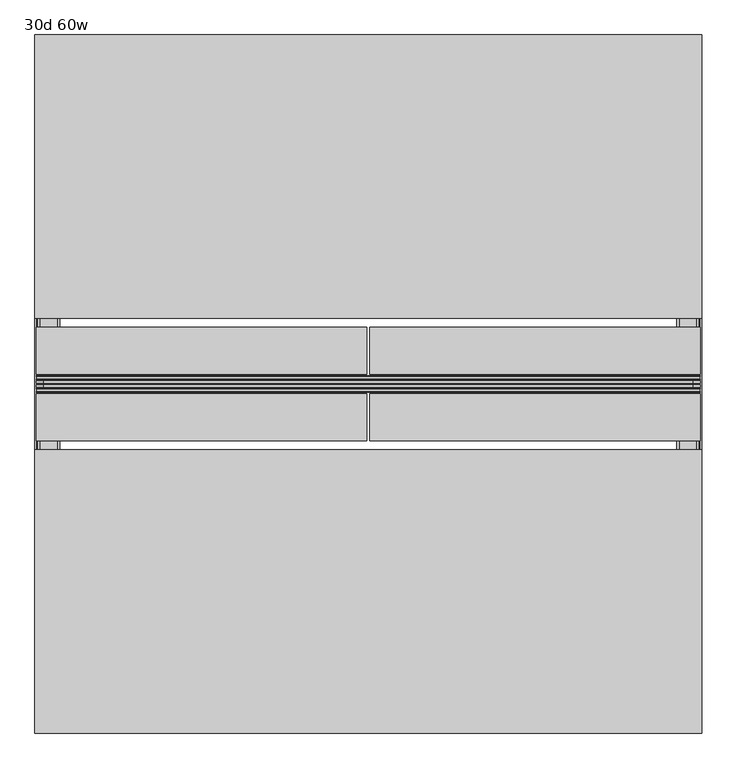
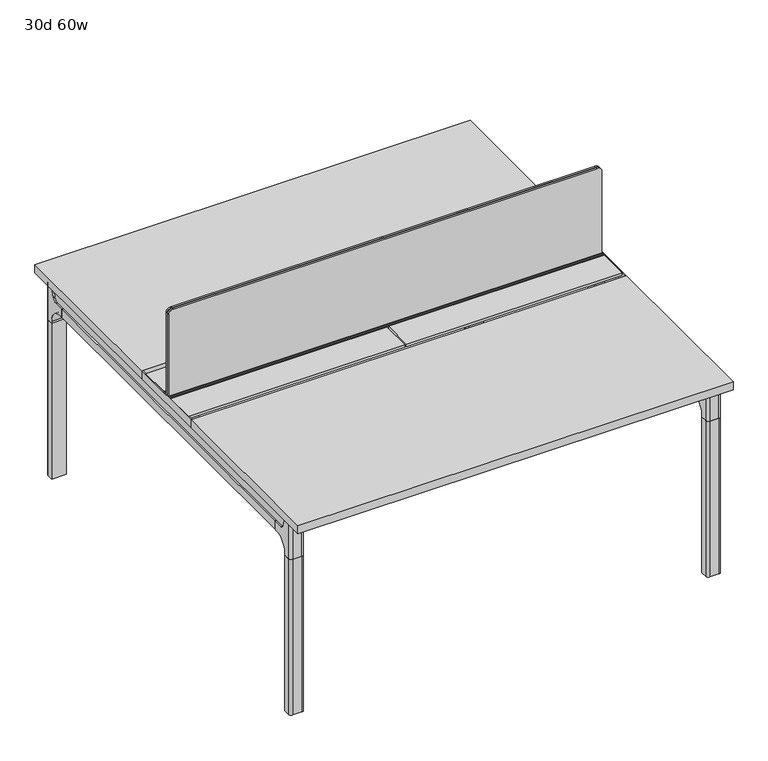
"""IFC4 building model written with IfcOpenShell, lengths in millimetres: furniture geometry, Haworth_Intuity_Benching_DoubleSided : 30d 60w."""

from ifc_helpers import new_model, si_unit, point, frame, frame_2d, origin, place, context, project, spatial, polyline, circle_curve, trimmed, segment, composite_curve, outline, extrude, source, transform, mapped, element, save
from ifc_brep_helpers import plane_surface, cylinder_surface, revolved_surface, advanced_brep


def furniture_30d_60w_475c9fa1(model_context):
    return source(origin(), model_context, "Body", "SolidModel", [
        extrude(outline(composite_curve([segment(polyline([(1054.89375, 955.675), (1054.89375, -523.875)]), True, "CONTINUOUS"), segment(trimmed(circle_curve(frame_2d((1039.01875, -523.875)), 15.875), [point((1054.89375, -523.875))], [point((1039.01875, -539.75))], False, "CARTESIAN"), True, "CONTINUOUS"), segment(polyline([(1039.01875, -539.75), (720.725, -539.75), (720.725, 971.55), (1039.01875, 971.55)]), True, "CONTINUOUS"), segment(trimmed(circle_curve(frame_2d((1039.01875, 955.675)), 15.875), [point((1039.01875, 971.55))], [point((1054.89375, 955.675))], False, "CARTESIAN"), True, "CONTINUOUS")], self_intersect=False)), frame((0.0, -201.3409766, 0.0), z_axis=(0.0, 1.0, 0.0), x_axis=(0.0, 0.0, 1.0)), (0.0, 0.0, 1.0), 3.175),
        extrude(outline(composite_curve([segment(polyline([(1058.06875, 958.85), (1058.06875, -527.05)]), True, "CONTINUOUS"), segment(trimmed(circle_curve(frame_2d((1042.19375, -527.05)), 15.875), [point((1058.06875, -527.05))], [point((1042.19375, -542.925))], False, "CARTESIAN"), True, "CONTINUOUS"), segment(polyline([(1042.19375, -542.925), (717.55, -542.925), (717.55, 974.725), (1042.19375, 974.725)]), True, "CONTINUOUS"), segment(trimmed(circle_curve(frame_2d((1042.19375, 958.85)), 15.875), [point((1042.19375, 974.725))], [point((1058.06875, 958.85))], False, "CARTESIAN"), True, "CONTINUOUS")], self_intersect=False)), frame((0.0, -198.1659766, 0.0), z_axis=(0.0, 1.0, 0.0), x_axis=(0.0, 0.0, 1.0)), (0.0, 0.0, 1.0), 5.55625),
        extrude(outline(composite_curve([segment(polyline([(1058.06875, 958.85), (1058.06875, -527.05)]), True, "CONTINUOUS"), segment(trimmed(circle_curve(frame_2d((1042.19375, -527.05)), 15.875), [point((1058.06875, -527.05))], [point((1042.19375, -542.925))], False, "CARTESIAN"), True, "CONTINUOUS"), segment(polyline([(1042.19375, -542.925), (717.55, -542.925), (717.55, 974.725), (1042.19375, 974.725)]), True, "CONTINUOUS"), segment(trimmed(circle_curve(frame_2d((1042.19375, 958.85)), 15.875), [point((1042.19375, 974.725))], [point((1058.06875, 958.85))], False, "CARTESIAN"), True, "CONTINUOUS")], self_intersect=False)), frame((0.0, -206.8972266, 0.0), z_axis=(0.0, 1.0, 0.0), x_axis=(0.0, 0.0, 1.0)), (0.0, 0.0, 1.0), 5.55625),
        extrude(outline(polyline([(-218.8034766, 715.9625), (-218.8034766, 741.3625), (-217.2159766, 741.3625), (-217.2159766, 720.725), (-210.8659766, 720.725), (-210.8659766, 741.3625), (-209.2784766, 741.3625), (-209.2784766, 717.55), (-190.2284766, 717.55), (-190.2284766, 741.3625), (-188.6409766, 741.3625), (-188.6409766, 720.725), (-182.2909766, 720.725), (-182.2909766, 741.3625), (-180.7034766, 741.3625), (-180.7034766, 715.9625), (-218.8034766, 715.9625)])), frame((-542.925, 0.0, 0.0), z_axis=(1.0, 0.0, 0.0), x_axis=(0.0, 1.0, 0.0)), (0.0, 0.0, 1.0), 1517.65),
        extrude(outline(composite_curve([segment(polyline([(505.8902734, 711.2), (496.8321726, 677.3947076)]), True, "CONTINUOUS"), segment(trimmed(circle_curve(frame_2d((481.4981001, 681.5034599)), 15.875), [point((496.8321726, 677.3947076))], [point((481.4981001, 665.6284599))], False, "CARTESIAN"), True, "CONTINUOUS"), segment(polyline([(481.4981001, 665.6284599), (-881.0050533, 665.6284599)]), True, "CONTINUOUS"), segment(trimmed(circle_curve(frame_2d((-881.0050533, 681.5034599)), 15.875), [point((-881.0050533, 665.6284599))], [point((-896.3391258, 677.3947076))], False, "CARTESIAN"), True, "CONTINUOUS"), segment(polyline([(-896.3391258, 677.3947076), (-905.3972266, 711.2), (505.8902734, 711.2)]), True, "CONTINUOUS")], self_intersect=False)), frame((927.1, 0.0, 0.0), z_axis=(1.0, 0.0, 0.0), x_axis=(0.0, 1.0, 0.0)), (0.0, 0.0, 1.0), 38.1),
        extrude(outline(polyline([(971.55, 445.5652734), (971.55, -845.0722266), (920.75, -845.0722266), (920.75, 445.5652734), (971.55, 445.5652734)])), frame((0.0, 0.0, 635.6476591), z_axis=(0.0, 0.0, 1.0), x_axis=(1.0, 0.0, 0.0)), (0.0, 0.0, 1.0), 29.9808008),
        extrude(outline(composite_curve([segment(polyline([(505.8902734, 711.2), (496.8321726, 677.3947076)]), True, "CONTINUOUS"), segment(trimmed(circle_curve(frame_2d((481.4981001, 681.5034599)), 15.875), [point((496.8321726, 677.3947076))], [point((481.4981001, 665.6284599))], False, "CARTESIAN"), True, "CONTINUOUS"), segment(polyline([(481.4981001, 665.6284599), (-881.0050533, 665.6284599)]), True, "CONTINUOUS"), segment(trimmed(circle_curve(frame_2d((-881.0050533, 681.5034599)), 15.875), [point((-881.0050533, 665.6284599))], [point((-896.3391258, 677.3947076))], False, "CARTESIAN"), True, "CONTINUOUS"), segment(polyline([(-896.3391258, 677.3947076), (-905.3972266, 711.2), (505.8902734, 711.2)]), True, "CONTINUOUS")], self_intersect=False)), frame((-533.4, 0.0, 0.0), z_axis=(1.0, 0.0, 0.0), x_axis=(0.0, 1.0, 0.0)), (0.0, 0.0, 1.0), 38.1),
        extrude(outline(polyline([(-488.95, 445.5652734), (-488.95, -845.0722266), (-539.75, -845.0722266), (-539.75, 445.5652734), (-488.95, 445.5652734)])), frame((0.0, 0.0, 635.6476591), z_axis=(0.0, 0.0, 1.0), x_axis=(1.0, 0.0, 0.0)), (0.0, 0.0, 1.0), 29.9808008),
        advanced_brep(
        [(971.55, 505.9366022, 711.2), (971.55, 496.8785014, 677.3947076), (971.55, 481.5444289, 665.6284599), (971.55, 445.5652734, 665.6284599), (971.55, 445.5652734, 635.6476591), (971.55, 456.6777734, 635.6476591), (971.55, 507.4777734, 584.8476591), (971.55, 507.4777734, 576.659375), (971.55, 529.7027734, 576.659375), (971.55, 529.7027734, 711.2), (920.75, 507.4777734, 576.659375), (920.75, 507.4777734, 584.8476591), (920.75, 456.6777734, 635.6476591), (920.75, 445.5652734, 635.6476591), (920.75, 445.5652734, 665.6284599), (920.75, 481.5444289, 665.6284599), (920.75, 496.8785014, 677.3947076), (920.75, 505.9366022, 711.2), (920.75, 529.7027734, 711.2), (920.75, 529.7027734, 576.659375), (962.025, 539.2277734, 711.2), (930.275, 539.2277734, 711.2), (930.275, 539.2277734, 576.659375), (962.025, 539.2277734, 576.659375)],
        [
            (0, 1),
            (1, 2, circle_curve(frame((971.55, 481.5444289, 681.5034599), z_axis=(-1.0, 0.0, 0.0), x_axis=(0.0, 1.0, 0.0)), 15.875)),
            (2, 3),
            (3, 4),
            (4, 5),
            (5, 6, circle_curve(frame((971.55, 456.6777734, 584.8476591), z_axis=(-1.0, 0.0, 0.0), x_axis=(0.0, 1.0, 0.0)), 50.8)),
            (6, 7),
            (7, 8),
            (8, 9),
            (9, 0),
            (10, 11),
            (11, 12, circle_curve(frame((920.75, 456.6777734, 584.8476591), z_axis=(1.0, 0.0, 0.0), x_axis=(0.0, 1.0, 0.0)), 50.8)),
            (12, 13),
            (13, 14),
            (14, 15),
            (15, 16, circle_curve(frame((920.75, 481.5444289, 681.5034599), z_axis=(1.0, 0.0, 0.0), x_axis=(0.0, 1.0, 0.0)), 15.875)),
            (16, 17),
            (17, 18),
            (18, 19),
            (19, 10),
            (17, 0),
            (9, 20, circle_curve(frame((962.025, 529.7027734, 711.2), z_axis=(0.0, 0.0, 1.0), x_axis=(-1.0, 0.0, 0.0)), 9.525)),
            (20, 21),
            (21, 18, circle_curve(frame((930.275, 529.7027734, 711.2), z_axis=(0.0, 0.0, 1.0), x_axis=(-1.0, 0.0, 0.0)), 9.525)),
            (16, 1),
            (15, 2),
            (14, 3),
            (13, 4),
            (12, 5),
            (7, 10),
            (19, 22, circle_curve(frame((930.275, 529.7027734, 576.659375), z_axis=(0.0, 0.0, -1.0), x_axis=(-1.0, 0.0, 0.0)), 9.525)),
            (22, 23),
            (23, 8, circle_curve(frame((962.025, 529.7027734, 576.659375), z_axis=(0.0, 0.0, -1.0), x_axis=(-1.0, 0.0, 0.0)), 9.525)),
            (11, 6),
            (23, 20),
            (21, 22),
        ],
        [
            plane_surface(frame((971.55, 546.154303, 711.2), z_axis=(1.0, 0.0, 0.0), x_axis=(0.0, -1.0, 0.0))),
            plane_surface(frame((920.75, 546.154303, 711.2), z_axis=(-1.0, 0.0, 0.0), x_axis=(0.0, 1.0, 0.0))),
            plane_surface(frame((971.55, 546.154303, 711.2), z_axis=(0.0, 0.0, 1.0), x_axis=(-1.0, 0.0, 0.0))),
            plane_surface(frame((971.55, 505.9366022, 711.2), z_axis=(0.0, -0.9659258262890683, 0.2588190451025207), x_axis=(-1.0, 0.0, 0.0))),
            revolved_surface(polyline([(920.75, 497.4194289, 681.5034599), (971.55, 497.4194289, 681.5034599)]), (920.75, 481.5444289, 681.5034599), (-1.0, 0.0, 0.0)),
            plane_surface(frame((971.55, 481.5444289, 665.6284599), z_axis=(0.0, 0.0, 1.0), x_axis=(-1.0, 0.0, 0.0))),
            plane_surface(frame((971.55, 445.5652734, 665.6284599), z_axis=(0.0, -1.0, 0.0), x_axis=(-1.0, 0.0, 0.0))),
            plane_surface(frame((971.55, 445.5652734, 635.6476591), z_axis=(0.0, 0.0, -1.0), x_axis=(-1.0, 0.0, 0.0))),
            plane_surface(frame((971.55, 507.4777734, 576.659375), z_axis=(0.0, 0.0, -1.0), x_axis=(-1.0, 0.0, 0.0))),
            revolved_surface(polyline([(920.75, 507.4777734, 584.8476591), (971.55, 507.4777734, 584.8476591)]), (920.75, 456.6777734, 584.8476591), (-1.0, 0.0, 0.0)),
            plane_surface(frame((971.55, 507.4777734, 584.8476591), z_axis=(0.0, -1.0, 0.0), x_axis=(-1.0, 0.0, 0.0))),
            cylinder_surface(frame((962.025, 529.7027734, 524.9807374), z_axis=(0.0, 0.0, -1.0), x_axis=(-1.0, 0.0, 0.0)), 9.525),
            cylinder_surface(frame((930.275, 529.7027734, 524.9807374), z_axis=(0.0, 0.0, -1.0), x_axis=(-1.0, 0.0, 0.0)), 9.525),
            plane_surface(frame((930.275, 539.2277734, 711.2), z_axis=(0.0, 1.0, 0.0), x_axis=(0.0, 0.0, -1.0))),
        ],
        [
            (0, [[1, 2, 3, 4, 5, 6, 7, 8, 9, 10]]),
            (1, [[11, 12, 13, 14, 15, 16, 17, 18, 19, 20]]),
            (2, [[21, -10, 22, 23, 24, -18]]),
            (3, [[-1, -21, -17, 25]]),
            (4, [[-2, -25, -16, 26]]),
            (5, [[-3, -26, -15, 27]]),
            (6, [[-4, -27, -14, 28]]),
            (7, [[-5, -28, -13, 29]]),
            (8, [[30, -20, 31, 32, 33, -8]]),
            (9, [[-6, -29, -12, 34]]),
            (10, [[-7, -34, -11, -30]]),
            (11, [[35, -22, -9, -33]]),
            (12, [[36, -31, -19, -24]]),
            (13, [[-35, -32, -36, -23]]),
        ],
    ),
        advanced_brep(
        [(920.75, 507.4777734, 576.659375), (971.55, 507.4777734, 576.659375), (971.55, 529.7027734, 576.659375), (962.025, 539.2277734, 576.659375), (930.275, 539.2277734, 576.659375), (920.75, 529.7027734, 576.659375), (920.75, 507.4777734, 0.0), (920.75, 529.7027734, 0.0), (930.275, 539.2277734, 0.0), (962.025, 539.2277734, 0.0), (971.55, 529.7027734, 0.0), (971.55, 507.4777734, 0.0), (971.55, 529.7027734, 524.9807374), (962.025, 539.2277734, 524.9807374), (930.275, 539.2277734, 524.9807374), (920.75, 529.7027734, 524.9807374)],
        [
            (0, 1),
            (1, 2),
            (2, 3, circle_curve(frame((962.025, 529.7027734, 576.659375), z_axis=(0.0, 0.0, 1.0), x_axis=(-1.0, 0.0, 0.0)), 9.525)),
            (3, 4),
            (4, 5, circle_curve(frame((930.275, 529.7027734, 576.659375), z_axis=(0.0, 0.0, 1.0), x_axis=(-1.0, 0.0, 0.0)), 9.525)),
            (5, 0),
            (6, 7),
            (7, 8, circle_curve(frame((930.275, 529.7027734, 0.0), z_axis=(0.0, 0.0, -1.0), x_axis=(-1.0, 0.0, 0.0)), 9.525)),
            (8, 9),
            (9, 10, circle_curve(frame((962.025, 529.7027734, 0.0), z_axis=(0.0, 0.0, -1.0), x_axis=(-1.0, 0.0, 0.0)), 9.525)),
            (10, 11),
            (11, 6),
            (0, 6),
            (11, 1),
            (10, 12),
            (12, 2),
            (9, 13),
            (13, 3),
            (8, 14),
            (14, 4),
            (7, 15),
            (15, 5),
        ],
        [
            plane_surface(frame((978.7462903, 507.4777734, 576.659375), z_axis=(0.0, 0.0, 1.0), x_axis=(1.0, 0.0, 0.0))),
            plane_surface(frame((978.7462903, 507.4777734, 0.0), z_axis=(0.0, 0.0, -1.0), x_axis=(-1.0, 0.0, 0.0))),
            plane_surface(frame((920.75, 507.4777734, 576.659375), z_axis=(0.0, -1.0, 0.0), x_axis=(0.0, 0.0, -1.0))),
            plane_surface(frame((971.55, 507.4777734, 576.659375), z_axis=(1.0, 0.0, 0.0), x_axis=(0.0, 0.0, -1.0))),
            cylinder_surface(frame((962.025, 529.7027734, 0.0), z_axis=(0.0, 0.0, 1.0), x_axis=(-1.0, 0.0, 0.0)), 9.525),
            plane_surface(frame((962.025, 539.2277734, 576.659375), z_axis=(0.0, 1.0, 0.0), x_axis=(0.0, 0.0, -1.0))),
            cylinder_surface(frame((930.275, 529.7027734, 0.0), z_axis=(0.0, 0.0, 1.0), x_axis=(-1.0, 0.0, 0.0)), 9.525),
            plane_surface(frame((920.75, 529.7027734, 576.659375), z_axis=(-1.0, 0.0, 0.0), x_axis=(0.0, 0.0, -1.0))),
        ],
        [
            (0, [[1, 2, 3, 4, 5, 6]]),
            (1, [[7, 8, 9, 10, 11, 12]]),
            (2, [[-1, 13, -12, 14]]),
            (3, [[-2, -14, -11, 15, 16]]),
            (4, [[-3, -16, -15, -10, 17, 18]]),
            (5, [[-4, -18, -17, -9, 19, 20]]),
            (6, [[-5, -20, -19, -8, 21, 22]]),
            (7, [[-6, -22, -21, -7, -13]]),
        ],
    ),
        advanced_brep(
        [(920.75, -905.4435553, 711.2), (920.75, -896.3854545, 677.3947076), (920.75, -881.051382, 665.6284599), (920.75, -845.0722266, 665.6284599), (920.75, -845.0722266, 635.6476591), (920.75, -856.1847266, 635.6476591), (920.75, -906.9847266, 584.8476591), (920.75, -906.9847266, 576.659375), (920.75, -929.2097266, 576.659375), (920.75, -929.2097266, 711.2), (971.55, -906.9847266, 576.659375), (971.55, -906.9847266, 584.8476591), (971.55, -856.1847266, 635.6476591), (971.55, -845.0722266, 635.6476591), (971.55, -845.0722266, 665.6284599), (971.55, -881.051382, 665.6284599), (971.55, -896.3854545, 677.3947076), (971.55, -905.4435553, 711.2), (971.55, -929.2097266, 711.2), (971.55, -929.2097266, 576.659375), (930.275, -938.7347266, 711.2), (962.025, -938.7347266, 711.2), (962.025, -938.7347266, 576.659375), (930.275, -938.7347266, 576.659375)],
        [
            (0, 1),
            (1, 2, circle_curve(frame((920.75, -881.051382, 681.5034599), z_axis=(1.0, 0.0, 0.0), x_axis=(0.0, -1.0, 0.0)), 15.875)),
            (2, 3),
            (3, 4),
            (4, 5),
            (5, 6, circle_curve(frame((920.75, -856.1847266, 584.8476591), z_axis=(1.0, 0.0, 0.0), x_axis=(0.0, -1.0, 0.0)), 50.8)),
            (6, 7),
            (7, 8),
            (8, 9),
            (9, 0),
            (10, 11),
            (11, 12, circle_curve(frame((971.55, -856.1847266, 584.8476591), z_axis=(-1.0, 0.0, 0.0), x_axis=(0.0, -1.0, 0.0)), 50.8)),
            (12, 13),
            (13, 14),
            (14, 15),
            (15, 16, circle_curve(frame((971.55, -881.051382, 681.5034599), z_axis=(-1.0, 0.0, 0.0), x_axis=(0.0, -1.0, 0.0)), 15.875)),
            (16, 17),
            (17, 18),
            (18, 19),
            (19, 10),
            (17, 0),
            (9, 20, circle_curve(frame((930.275, -929.2097266, 711.2), z_axis=(0.0, 0.0, 1.0), x_axis=(1.0, 0.0, 0.0)), 9.525)),
            (20, 21),
            (21, 18, circle_curve(frame((962.025, -929.2097266, 711.2), z_axis=(0.0, 0.0, 1.0), x_axis=(1.0, 0.0, 0.0)), 9.525)),
            (16, 1),
            (15, 2),
            (14, 3),
            (13, 4),
            (12, 5),
            (7, 10),
            (19, 22, circle_curve(frame((962.025, -929.2097266, 576.659375), z_axis=(0.0, 0.0, -1.0), x_axis=(1.0, 0.0, 0.0)), 9.525)),
            (22, 23),
            (23, 8, circle_curve(frame((930.275, -929.2097266, 576.659375), z_axis=(0.0, 0.0, -1.0), x_axis=(1.0, 0.0, 0.0)), 9.525)),
            (11, 6),
            (23, 20),
            (21, 22),
        ],
        [
            plane_surface(frame((920.75, -945.6612561, 711.2), z_axis=(-1.0, 0.0, 0.0), x_axis=(0.0, 1.0, 0.0))),
            plane_surface(frame((971.55, -945.6612561, 711.2), z_axis=(1.0, 0.0, 0.0), x_axis=(0.0, -1.0, 0.0))),
            plane_surface(frame((920.75, -945.6612561, 711.2), z_axis=(0.0, 0.0, 1.0), x_axis=(1.0, 0.0, 0.0))),
            plane_surface(frame((920.75, -905.4435553, 711.2), z_axis=(0.0, 0.9659258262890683, 0.2588190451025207), x_axis=(1.0, 0.0, 0.0))),
            revolved_surface(polyline([(971.55, -896.926382, 681.5034599), (920.75, -896.926382, 681.5034599)]), (971.55, -881.051382, 681.5034599), (1.0, 0.0, 0.0)),
            plane_surface(frame((920.75, -881.051382, 665.6284599), z_axis=(0.0, 0.0, 1.0), x_axis=(1.0, 0.0, 0.0))),
            plane_surface(frame((920.75, -845.0722266, 665.6284599), z_axis=(0.0, 1.0, 0.0), x_axis=(1.0, 0.0, 0.0))),
            plane_surface(frame((920.75, -845.0722266, 635.6476591), z_axis=(0.0, 0.0, -1.0), x_axis=(1.0, 0.0, 0.0))),
            plane_surface(frame((920.75, -906.9847266, 576.659375), z_axis=(0.0, 0.0, -1.0), x_axis=(1.0, 0.0, 0.0))),
            revolved_surface(polyline([(971.55, -906.9847265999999, 584.8476591), (920.75, -906.9847265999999, 584.8476591)]), (971.55, -856.1847266, 584.8476591), (1.0, 0.0, 0.0)),
            plane_surface(frame((920.75, -906.9847266, 584.8476591), z_axis=(0.0, 1.0, 0.0), x_axis=(1.0, 0.0, 0.0))),
            cylinder_surface(frame((930.275, -929.2097266, 524.9807374), z_axis=(0.0, 0.0, -1.0), x_axis=(1.0, 0.0, 0.0)), 9.525),
            cylinder_surface(frame((962.025, -929.2097266, 524.9807374), z_axis=(0.0, 0.0, -1.0), x_axis=(1.0, 0.0, 0.0)), 9.525),
            plane_surface(frame((962.025, -938.7347266, 711.2), z_axis=(0.0, -1.0, 0.0), x_axis=(0.0, 0.0, -1.0))),
        ],
        [
            (0, [[1, 2, 3, 4, 5, 6, 7, 8, 9, 10]]),
            (1, [[11, 12, 13, 14, 15, 16, 17, 18, 19, 20]]),
            (2, [[21, -10, 22, 23, 24, -18]]),
            (3, [[-1, -21, -17, 25]]),
            (4, [[-2, -25, -16, 26]]),
            (5, [[-3, -26, -15, 27]]),
            (6, [[-4, -27, -14, 28]]),
            (7, [[-5, -28, -13, 29]]),
            (8, [[30, -20, 31, 32, 33, -8]]),
            (9, [[-6, -29, -12, 34]]),
            (10, [[-7, -34, -11, -30]]),
            (11, [[35, -22, -9, -33]]),
            (12, [[36, -31, -19, -24]]),
            (13, [[-35, -32, -36, -23]]),
        ],
    ),
        advanced_brep(
        [(971.55, -906.9847266, 576.659375), (920.75, -906.9847266, 576.659375), (920.75, -929.2097266, 576.659375), (930.275, -938.7347266, 576.659375), (962.025, -938.7347266, 576.659375), (971.55, -929.2097266, 576.659375), (971.55, -906.9847266, 0.0), (971.55, -929.2097266, 0.0), (962.025, -938.7347266, 0.0), (930.275, -938.7347266, 0.0), (920.75, -929.2097266, 0.0), (920.75, -906.9847266, 0.0), (920.75, -929.2097266, 524.9807374), (930.275, -938.7347266, 524.9807374), (962.025, -938.7347266, 524.9807374), (971.55, -929.2097266, 524.9807374)],
        [
            (0, 1),
            (1, 2),
            (2, 3, circle_curve(frame((930.275, -929.2097266, 576.659375), z_axis=(0.0, 0.0, 1.0), x_axis=(1.0, 0.0, 0.0)), 9.525)),
            (3, 4),
            (4, 5, circle_curve(frame((962.025, -929.2097266, 576.659375), z_axis=(0.0, 0.0, 1.0), x_axis=(1.0, 0.0, 0.0)), 9.525)),
            (5, 0),
            (6, 7),
            (7, 8, circle_curve(frame((962.025, -929.2097266, 0.0), z_axis=(0.0, 0.0, -1.0), x_axis=(1.0, 0.0, 0.0)), 9.525)),
            (8, 9),
            (9, 10, circle_curve(frame((930.275, -929.2097266, 0.0), z_axis=(0.0, 0.0, -1.0), x_axis=(1.0, 0.0, 0.0)), 9.525)),
            (10, 11),
            (11, 6),
            (0, 6),
            (11, 1),
            (10, 12),
            (12, 2),
            (9, 13),
            (13, 3),
            (8, 14),
            (14, 4),
            (7, 15),
            (15, 5),
        ],
        [
            plane_surface(frame((913.5537097, -906.9847266, 576.659375), z_axis=(0.0, 0.0, 1.0), x_axis=(-1.0, 0.0, 0.0))),
            plane_surface(frame((913.5537097, -906.9847266, 0.0), z_axis=(0.0, 0.0, -1.0), x_axis=(1.0, 0.0, 0.0))),
            plane_surface(frame((971.55, -906.9847266, 576.659375), z_axis=(0.0, 1.0, 0.0), x_axis=(0.0, 0.0, -1.0))),
            plane_surface(frame((920.75, -906.9847266, 576.659375), z_axis=(-1.0, 0.0, 0.0), x_axis=(0.0, 0.0, -1.0))),
            cylinder_surface(frame((930.275, -929.2097266, 0.0), z_axis=(0.0, 0.0, 1.0), x_axis=(1.0, 0.0, 0.0)), 9.525),
            plane_surface(frame((930.275, -938.7347266, 576.659375), z_axis=(0.0, -1.0, 0.0), x_axis=(0.0, 0.0, -1.0))),
            cylinder_surface(frame((962.025, -929.2097266, 0.0), z_axis=(0.0, 0.0, 1.0), x_axis=(1.0, 0.0, 0.0)), 9.525),
            plane_surface(frame((971.55, -929.2097266, 576.659375), z_axis=(1.0, 0.0, 0.0), x_axis=(0.0, 0.0, -1.0))),
        ],
        [
            (0, [[1, 2, 3, 4, 5, 6]]),
            (1, [[7, 8, 9, 10, 11, 12]]),
            (2, [[-1, 13, -12, 14]]),
            (3, [[-2, -14, -11, 15, 16]]),
            (4, [[-3, -16, -15, -10, 17, 18]]),
            (5, [[-4, -18, -17, -9, 19, 20]]),
            (6, [[-5, -20, -19, -8, 21, 22]]),
            (7, [[-6, -22, -21, -7, -13]]),
        ],
    ),
        advanced_brep(
        [(-488.95, 505.9366022, 711.2), (-488.95, 496.8785014, 677.3947076), (-488.95, 481.5444289, 665.6284599), (-488.95, 445.5652734, 665.6284599), (-488.95, 445.5652734, 635.6476591), (-488.95, 456.6777734, 635.6476591), (-488.95, 507.4777734, 584.8476591), (-488.95, 507.4777734, 576.659375), (-488.95, 529.7027734, 576.659375), (-488.95, 529.7027734, 711.2), (-539.75, 507.4777734, 576.659375), (-539.75, 507.4777734, 584.8476591), (-539.75, 456.6777734, 635.6476591), (-539.75, 445.5652734, 635.6476591), (-539.75, 445.5652734, 665.6284599), (-539.75, 481.5444289, 665.6284599), (-539.75, 496.8785014, 677.3947076), (-539.75, 505.9366022, 711.2), (-539.75, 529.7027734, 711.2), (-539.75, 529.7027734, 576.659375), (-498.475, 539.2277734, 711.2), (-530.225, 539.2277734, 711.2), (-530.225, 539.2277734, 576.659375), (-498.475, 539.2277734, 576.659375)],
        [
            (0, 1),
            (1, 2, circle_curve(frame((-488.95, 481.5444289, 681.5034599), z_axis=(-1.0, 0.0, 0.0), x_axis=(0.0, 1.0, 0.0)), 15.875)),
            (2, 3),
            (3, 4),
            (4, 5),
            (5, 6, circle_curve(frame((-488.95, 456.6777734, 584.8476591), z_axis=(-1.0, 0.0, 0.0), x_axis=(0.0, 1.0, 0.0)), 50.8)),
            (6, 7),
            (7, 8),
            (8, 9),
            (9, 0),
            (10, 11),
            (11, 12, circle_curve(frame((-539.75, 456.6777734, 584.8476591), z_axis=(1.0, 0.0, 0.0), x_axis=(0.0, 1.0, 0.0)), 50.8)),
            (12, 13),
            (13, 14),
            (14, 15),
            (15, 16, circle_curve(frame((-539.75, 481.5444289, 681.5034599), z_axis=(1.0, 0.0, 0.0), x_axis=(0.0, 1.0, 0.0)), 15.875)),
            (16, 17),
            (17, 18),
            (18, 19),
            (19, 10),
            (17, 0),
            (9, 20, circle_curve(frame((-498.475, 529.7027734, 711.2), z_axis=(0.0, 0.0, 1.0), x_axis=(-1.0, 0.0, 0.0)), 9.525)),
            (20, 21),
            (21, 18, circle_curve(frame((-530.225, 529.7027734, 711.2), z_axis=(0.0, 0.0, 1.0), x_axis=(-1.0, 0.0, 0.0)), 9.525)),
            (16, 1),
            (15, 2),
            (14, 3),
            (13, 4),
            (12, 5),
            (7, 10),
            (19, 22, circle_curve(frame((-530.225, 529.7027734, 576.659375), z_axis=(0.0, 0.0, -1.0), x_axis=(-1.0, 0.0, 0.0)), 9.525)),
            (22, 23),
            (23, 8, circle_curve(frame((-498.475, 529.7027734, 576.659375), z_axis=(0.0, 0.0, -1.0), x_axis=(-1.0, 0.0, 0.0)), 9.525)),
            (11, 6),
            (23, 20),
            (21, 22),
        ],
        [
            plane_surface(frame((-488.95, 546.154303, 711.2), z_axis=(1.0, 0.0, 0.0), x_axis=(0.0, -1.0, 0.0))),
            plane_surface(frame((-539.75, 546.154303, 711.2), z_axis=(-1.0, 0.0, 0.0), x_axis=(0.0, 1.0, 0.0))),
            plane_surface(frame((-488.95, 546.154303, 711.2), z_axis=(0.0, 0.0, 1.0), x_axis=(-1.0, 0.0, 0.0))),
            plane_surface(frame((-488.95, 505.9366022, 711.2), z_axis=(0.0, -0.9659258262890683, 0.2588190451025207), x_axis=(-1.0, 0.0, 0.0))),
            revolved_surface(polyline([(-539.75, 497.4194289, 681.5034599), (-488.95, 497.4194289, 681.5034599)]), (-539.75, 481.5444289, 681.5034599), (-1.0, 0.0, 0.0)),
            plane_surface(frame((-488.95, 481.5444289, 665.6284599), z_axis=(0.0, 0.0, 1.0), x_axis=(-1.0, 0.0, 0.0))),
            plane_surface(frame((-488.95, 445.5652734, 665.6284599), z_axis=(0.0, -1.0, 0.0), x_axis=(-1.0, 0.0, 0.0))),
            plane_surface(frame((-488.95, 445.5652734, 635.6476591), z_axis=(0.0, 0.0, -1.0), x_axis=(-1.0, 0.0, 0.0))),
            plane_surface(frame((-488.95, 507.4777734, 576.659375), z_axis=(0.0, 0.0, -1.0), x_axis=(-1.0, 0.0, 0.0))),
            revolved_surface(polyline([(-539.75, 507.4777734, 584.8476591), (-488.95, 507.4777734, 584.8476591)]), (-539.75, 456.6777734, 584.8476591), (-1.0, 0.0, 0.0)),
            plane_surface(frame((-488.95, 507.4777734, 584.8476591), z_axis=(0.0, -1.0, 0.0), x_axis=(-1.0, 0.0, 0.0))),
            cylinder_surface(frame((-498.475, 529.7027734, 524.9807374), z_axis=(0.0, 0.0, -1.0), x_axis=(-1.0, 0.0, 0.0)), 9.525),
            cylinder_surface(frame((-530.225, 529.7027734, 524.9807374), z_axis=(0.0, 0.0, -1.0), x_axis=(-1.0, 0.0, 0.0)), 9.525),
            plane_surface(frame((-530.225, 539.2277734, 711.2), z_axis=(0.0, 1.0, 0.0), x_axis=(0.0, 0.0, -1.0))),
        ],
        [
            (0, [[1, 2, 3, 4, 5, 6, 7, 8, 9, 10]]),
            (1, [[11, 12, 13, 14, 15, 16, 17, 18, 19, 20]]),
            (2, [[21, -10, 22, 23, 24, -18]]),
            (3, [[-1, -21, -17, 25]]),
            (4, [[-2, -25, -16, 26]]),
            (5, [[-3, -26, -15, 27]]),
            (6, [[-4, -27, -14, 28]]),
            (7, [[-5, -28, -13, 29]]),
            (8, [[30, -20, 31, 32, 33, -8]]),
            (9, [[-6, -29, -12, 34]]),
            (10, [[-7, -34, -11, -30]]),
            (11, [[35, -22, -9, -33]]),
            (12, [[36, -31, -19, -24]]),
            (13, [[-35, -32, -36, -23]]),
        ],
    ),
        advanced_brep(
        [(-539.75, 507.4777734, 576.659375), (-488.95, 507.4777734, 576.659375), (-488.95, 529.7027734, 576.659375), (-498.475, 539.2277734, 576.659375), (-530.225, 539.2277734, 576.659375), (-539.75, 529.7027734, 576.659375), (-539.75, 507.4777734, 0.0), (-539.75, 529.7027734, 0.0), (-530.225, 539.2277734, 0.0), (-498.475, 539.2277734, 0.0), (-488.95, 529.7027734, 0.0), (-488.95, 507.4777734, 0.0), (-488.95, 529.7027734, 524.9807374), (-498.475, 539.2277734, 524.9807374), (-530.225, 539.2277734, 524.9807374), (-539.75, 529.7027734, 524.9807374)],
        [
            (0, 1),
            (1, 2),
            (2, 3, circle_curve(frame((-498.475, 529.7027734, 576.659375), z_axis=(0.0, 0.0, 1.0), x_axis=(-1.0, 0.0, 0.0)), 9.525)),
            (3, 4),
            (4, 5, circle_curve(frame((-530.225, 529.7027734, 576.659375), z_axis=(0.0, 0.0, 1.0), x_axis=(-1.0, 0.0, 0.0)), 9.525)),
            (5, 0),
            (6, 7),
            (7, 8, circle_curve(frame((-530.225, 529.7027734, 0.0), z_axis=(0.0, 0.0, -1.0), x_axis=(-1.0, 0.0, 0.0)), 9.525)),
            (8, 9),
            (9, 10, circle_curve(frame((-498.475, 529.7027734, 0.0), z_axis=(0.0, 0.0, -1.0), x_axis=(-1.0, 0.0, 0.0)), 9.525)),
            (10, 11),
            (11, 6),
            (0, 6),
            (11, 1),
            (10, 12),
            (12, 2),
            (9, 13),
            (13, 3),
            (8, 14),
            (14, 4),
            (7, 15),
            (15, 5),
        ],
        [
            plane_surface(frame((-481.7537097, 507.4777734, 576.659375), z_axis=(0.0, 0.0, 1.0), x_axis=(1.0, 0.0, 0.0))),
            plane_surface(frame((-481.7537097, 507.4777734, 0.0), z_axis=(0.0, 0.0, -1.0), x_axis=(-1.0, 0.0, 0.0))),
            plane_surface(frame((-539.75, 507.4777734, 576.659375), z_axis=(0.0, -1.0, 0.0), x_axis=(0.0, 0.0, -1.0))),
            plane_surface(frame((-488.95, 507.4777734, 576.659375), z_axis=(1.0, 0.0, 0.0), x_axis=(0.0, 0.0, -1.0))),
            cylinder_surface(frame((-498.475, 529.7027734, 0.0), z_axis=(0.0, 0.0, 1.0), x_axis=(-1.0, 0.0, 0.0)), 9.525),
            plane_surface(frame((-498.475, 539.2277734, 576.659375), z_axis=(0.0, 1.0, 0.0), x_axis=(0.0, 0.0, -1.0))),
            cylinder_surface(frame((-530.225, 529.7027734, 0.0), z_axis=(0.0, 0.0, 1.0), x_axis=(-1.0, 0.0, 0.0)), 9.525),
            plane_surface(frame((-539.75, 529.7027734, 576.659375), z_axis=(-1.0, 0.0, 0.0), x_axis=(0.0, 0.0, -1.0))),
        ],
        [
            (0, [[1, 2, 3, 4, 5, 6]]),
            (1, [[7, 8, 9, 10, 11, 12]]),
            (2, [[-1, 13, -12, 14]]),
            (3, [[-2, -14, -11, 15, 16]]),
            (4, [[-3, -16, -15, -10, 17, 18]]),
            (5, [[-4, -18, -17, -9, 19, 20]]),
            (6, [[-5, -20, -19, -8, 21, 22]]),
            (7, [[-6, -22, -21, -7, -13]]),
        ],
    ),
        advanced_brep(
        [(-539.75, -905.4435553, 711.2), (-539.75, -896.3854545, 677.3947076), (-539.75, -881.051382, 665.6284599), (-539.75, -845.0722266, 665.6284599), (-539.75, -845.0722266, 635.6476591), (-539.75, -856.1847266, 635.6476591), (-539.75, -906.9847266, 584.8476591), (-539.75, -906.9847266, 576.659375), (-539.75, -929.2097266, 576.659375), (-539.75, -929.2097266, 711.2), (-488.95, -906.9847266, 576.659375), (-488.95, -906.9847266, 584.8476591), (-488.95, -856.1847266, 635.6476591), (-488.95, -845.0722266, 635.6476591), (-488.95, -845.0722266, 665.6284599), (-488.95, -881.051382, 665.6284599), (-488.95, -896.3854545, 677.3947076), (-488.95, -905.4435553, 711.2), (-488.95, -929.2097266, 711.2), (-488.95, -929.2097266, 576.659375), (-530.225, -938.7347266, 711.2), (-498.475, -938.7347266, 711.2), (-498.475, -938.7347266, 576.659375), (-530.225, -938.7347266, 576.659375)],
        [
            (0, 1),
            (1, 2, circle_curve(frame((-539.75, -881.051382, 681.5034599), z_axis=(1.0, 0.0, 0.0), x_axis=(0.0, -1.0, 0.0)), 15.875)),
            (2, 3),
            (3, 4),
            (4, 5),
            (5, 6, circle_curve(frame((-539.75, -856.1847266, 584.8476591), z_axis=(1.0, 0.0, 0.0), x_axis=(0.0, -1.0, 0.0)), 50.8)),
            (6, 7),
            (7, 8),
            (8, 9),
            (9, 0),
            (10, 11),
            (11, 12, circle_curve(frame((-488.95, -856.1847266, 584.8476591), z_axis=(-1.0, 0.0, 0.0), x_axis=(0.0, -1.0, 0.0)), 50.8)),
            (12, 13),
            (13, 14),
            (14, 15),
            (15, 16, circle_curve(frame((-488.95, -881.051382, 681.5034599), z_axis=(-1.0, 0.0, 0.0), x_axis=(0.0, -1.0, 0.0)), 15.875)),
            (16, 17),
            (17, 18),
            (18, 19),
            (19, 10),
            (17, 0),
            (9, 20, circle_curve(frame((-530.225, -929.2097266, 711.2), z_axis=(0.0, 0.0, 1.0), x_axis=(1.0, 0.0, 0.0)), 9.525)),
            (20, 21),
            (21, 18, circle_curve(frame((-498.475, -929.2097266, 711.2), z_axis=(0.0, 0.0, 1.0), x_axis=(1.0, 0.0, 0.0)), 9.525)),
            (16, 1),
            (15, 2),
            (14, 3),
            (13, 4),
            (12, 5),
            (7, 10),
            (19, 22, circle_curve(frame((-498.475, -929.2097266, 576.659375), z_axis=(0.0, 0.0, -1.0), x_axis=(1.0, 0.0, 0.0)), 9.525)),
            (22, 23),
            (23, 8, circle_curve(frame((-530.225, -929.2097266, 576.659375), z_axis=(0.0, 0.0, -1.0), x_axis=(1.0, 0.0, 0.0)), 9.525)),
            (11, 6),
            (23, 20),
            (21, 22),
        ],
        [
            plane_surface(frame((-539.75, -945.6612561, 711.2), z_axis=(-1.0, 0.0, 0.0), x_axis=(0.0, 1.0, 0.0))),
            plane_surface(frame((-488.95, -945.6612561, 711.2), z_axis=(1.0, 0.0, 0.0), x_axis=(0.0, -1.0, 0.0))),
            plane_surface(frame((-539.75, -945.6612561, 711.2), z_axis=(0.0, 0.0, 1.0), x_axis=(1.0, 0.0, 0.0))),
            plane_surface(frame((-539.75, -905.4435553, 711.2), z_axis=(0.0, 0.9659258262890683, 0.2588190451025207), x_axis=(1.0, 0.0, 0.0))),
            revolved_surface(polyline([(-488.95, -896.926382, 681.5034599), (-539.75, -896.926382, 681.5034599)]), (-488.95, -881.051382, 681.5034599), (1.0, 0.0, 0.0)),
            plane_surface(frame((-539.75, -881.051382, 665.6284599), z_axis=(0.0, 0.0, 1.0), x_axis=(1.0, 0.0, 0.0))),
            plane_surface(frame((-539.75, -845.0722266, 665.6284599), z_axis=(0.0, 1.0, 0.0), x_axis=(1.0, 0.0, 0.0))),
            plane_surface(frame((-539.75, -845.0722266, 635.6476591), z_axis=(0.0, 0.0, -1.0), x_axis=(1.0, 0.0, 0.0))),
            plane_surface(frame((-539.75, -906.9847266, 576.659375), z_axis=(0.0, 0.0, -1.0), x_axis=(1.0, 0.0, 0.0))),
            revolved_surface(polyline([(-488.95, -906.9847265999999, 584.8476591), (-539.75, -906.9847265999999, 584.8476591)]), (-488.95, -856.1847266, 584.8476591), (1.0, 0.0, 0.0)),
            plane_surface(frame((-539.75, -906.9847266, 584.8476591), z_axis=(0.0, 1.0, 0.0), x_axis=(1.0, 0.0, 0.0))),
            cylinder_surface(frame((-530.225, -929.2097266, 524.9807374), z_axis=(0.0, 0.0, -1.0), x_axis=(1.0, 0.0, 0.0)), 9.525),
            cylinder_surface(frame((-498.475, -929.2097266, 524.9807374), z_axis=(0.0, 0.0, -1.0), x_axis=(1.0, 0.0, 0.0)), 9.525),
            plane_surface(frame((-498.475, -938.7347266, 711.2), z_axis=(0.0, -1.0, 0.0), x_axis=(0.0, 0.0, -1.0))),
        ],
        [
            (0, [[1, 2, 3, 4, 5, 6, 7, 8, 9, 10]]),
            (1, [[11, 12, 13, 14, 15, 16, 17, 18, 19, 20]]),
            (2, [[21, -10, 22, 23, 24, -18]]),
            (3, [[-1, -21, -17, 25]]),
            (4, [[-2, -25, -16, 26]]),
            (5, [[-3, -26, -15, 27]]),
            (6, [[-4, -27, -14, 28]]),
            (7, [[-5, -28, -13, 29]]),
            (8, [[30, -20, 31, 32, 33, -8]]),
            (9, [[-6, -29, -12, 34]]),
            (10, [[-7, -34, -11, -30]]),
            (11, [[35, -22, -9, -33]]),
            (12, [[36, -31, -19, -24]]),
            (13, [[-35, -32, -36, -23]]),
        ],
    ),
        advanced_brep(
        [(-488.95, -906.9847266, 576.659375), (-539.75, -906.9847266, 576.659375), (-539.75, -929.2097266, 576.659375), (-530.225, -938.7347266, 576.659375), (-498.475, -938.7347266, 576.659375), (-488.95, -929.2097266, 576.659375), (-488.95, -906.9847266, 0.0), (-488.95, -929.2097266, 0.0), (-498.475, -938.7347266, 0.0), (-530.225, -938.7347266, 0.0), (-539.75, -929.2097266, 0.0), (-539.75, -906.9847266, 0.0), (-539.75, -929.2097266, 524.9807374), (-530.225, -938.7347266, 524.9807374), (-498.475, -938.7347266, 524.9807374), (-488.95, -929.2097266, 524.9807374)],
        [
            (0, 1),
            (1, 2),
            (2, 3, circle_curve(frame((-530.225, -929.2097266, 576.659375), z_axis=(0.0, 0.0, 1.0), x_axis=(1.0, 0.0, 0.0)), 9.525)),
            (3, 4),
            (4, 5, circle_curve(frame((-498.475, -929.2097266, 576.659375), z_axis=(0.0, 0.0, 1.0), x_axis=(1.0, 0.0, 0.0)), 9.525)),
            (5, 0),
            (6, 7),
            (7, 8, circle_curve(frame((-498.475, -929.2097266, 0.0), z_axis=(0.0, 0.0, -1.0), x_axis=(1.0, 0.0, 0.0)), 9.525)),
            (8, 9),
            (9, 10, circle_curve(frame((-530.225, -929.2097266, 0.0), z_axis=(0.0, 0.0, -1.0), x_axis=(1.0, 0.0, 0.0)), 9.525)),
            (10, 11),
            (11, 6),
            (0, 6),
            (11, 1),
            (10, 12),
            (12, 2),
            (9, 13),
            (13, 3),
            (8, 14),
            (14, 4),
            (7, 15),
            (15, 5),
        ],
        [
            plane_surface(frame((-546.9462903, -906.9847266, 576.659375), z_axis=(0.0, 0.0, 1.0), x_axis=(-1.0, 0.0, 0.0))),
            plane_surface(frame((-546.9462903, -906.9847266, 0.0), z_axis=(0.0, 0.0, -1.0), x_axis=(1.0, 0.0, 0.0))),
            plane_surface(frame((-488.95, -906.9847266, 576.659375), z_axis=(0.0, 1.0, 0.0), x_axis=(0.0, 0.0, -1.0))),
            plane_surface(frame((-539.75, -906.9847266, 576.659375), z_axis=(-1.0, 0.0, 0.0), x_axis=(0.0, 0.0, -1.0))),
            cylinder_surface(frame((-530.225, -929.2097266, 0.0), z_axis=(0.0, 0.0, 1.0), x_axis=(1.0, 0.0, 0.0)), 9.525),
            plane_surface(frame((-530.225, -938.7347266, 576.659375), z_axis=(0.0, -1.0, 0.0), x_axis=(0.0, 0.0, -1.0))),
            cylinder_surface(frame((-498.475, -929.2097266, 0.0), z_axis=(0.0, 0.0, 1.0), x_axis=(1.0, 0.0, 0.0)), 9.525),
            plane_surface(frame((-488.95, -929.2097266, 576.659375), z_axis=(1.0, 0.0, 0.0), x_axis=(0.0, 0.0, -1.0))),
        ],
        [
            (0, [[1, 2, 3, 4, 5, 6]]),
            (1, [[7, 8, 9, 10, 11, 12]]),
            (2, [[-1, 13, -12, 14]]),
            (3, [[-2, -14, -11, 15, 16]]),
            (4, [[-3, -16, -15, -10, 17, 18]]),
            (5, [[-4, -18, -17, -9, 19, 20]]),
            (6, [[-5, -20, -19, -8, 21, 22]]),
            (7, [[-6, -22, -21, -7, -13]]),
        ],
    ),
        extrude(outline(polyline([(-546.1, -49.7347266), (-546.1, 597.9652734), (977.9, 597.9652734), (977.9, -49.7347266), (-546.1, -49.7347266)])), frame((0.0, 0.0, 711.2), z_axis=(0.0, 0.0, 1.0), x_axis=(1.0, 0.0, 0.0)), (0.0, 0.0, 1.0), 30.1625),
        extrude(outline(polyline([(977.9, -349.7722266), (977.9, -997.4722266), (-546.1, -997.4722266), (-546.1, -349.7722266), (977.9, -349.7722266)])), frame((0.0, 0.0, 711.2), z_axis=(0.0, 0.0, 1.0), x_axis=(1.0, 0.0, 0.0)), (0.0, 0.0, 1.0), 30.1625),
        extrude(outline(polyline([(212.725, -69.5784766), (212.725, -177.5284766), (-542.925, -177.5284766), (-542.925, -69.5784766), (212.725, -69.5784766)])), frame((0.0, 0.0, 731.8375), z_axis=(0.0, 0.0, 1.0), x_axis=(1.0, 0.0, 0.0)), (0.0, 0.0, 1.0), 9.525),
        extrude(outline(polyline([(212.725, -221.9784766), (212.725, -329.9284766), (-542.925, -329.9284766), (-542.925, -221.9784766), (212.725, -221.9784766)])), frame((0.0, 0.0, 731.8375), z_axis=(0.0, 0.0, 1.0), x_axis=(1.0, 0.0, 0.0)), (0.0, 0.0, 1.0), 9.525),
        extrude(outline(polyline([(974.725, -69.5784766), (974.725, -177.5284766), (219.075, -177.5284766), (219.075, -69.5784766), (974.725, -69.5784766)])), frame((0.0, 0.0, 731.8375), z_axis=(0.0, 0.0, 1.0), x_axis=(1.0, 0.0, 0.0)), (0.0, 0.0, 1.0), 9.525),
        extrude(outline(polyline([(974.725, -221.9784766), (974.725, -329.9284766), (219.075, -329.9284766), (219.075, -221.9784766), (974.725, -221.9784766)])), frame((0.0, 0.0, 731.8375), z_axis=(0.0, 0.0, 1.0), x_axis=(1.0, 0.0, 0.0)), (0.0, 0.0, 1.0), 9.525),
        extrude(outline(polyline([(920.75, 9.7965234), (920.75, -21.9534766), (-488.95, -21.9534766), (-488.95, 9.7965234), (920.75, 9.7965234)])), frame((0.0, 0.0, 646.1125), z_axis=(0.0, 0.0, 1.0), x_axis=(1.0, 0.0, 0.0)), (0.0, 0.0, 1.0), 50.8),
        extrude(outline(polyline([(920.75, -377.5534766), (920.75, -409.3034766), (-488.95, -409.3034766), (-488.95, -377.5534766), (920.75, -377.5534766)])), frame((0.0, 0.0, 646.1125), z_axis=(0.0, 0.0, 1.0), x_axis=(1.0, 0.0, 0.0)), (0.0, 0.0, 1.0), 50.8),
        extrude(outline(polyline([(977.9, -49.7347266), (977.9, -349.7722266), (974.725, -349.7722266), (974.725, -49.7347266), (977.9, -49.7347266)])), frame((0.0, 0.0, 711.2), z_axis=(0.0, 0.0, 1.0), x_axis=(1.0, 0.0, 0.0)), (0.0, 0.0, 1.0), 30.1625),
        extrude(outline(polyline([(-542.925, -49.7347266), (-542.925, -349.7722266), (-546.1, -349.7722266), (-546.1, -49.7347266), (-542.925, -49.7347266)])), frame((0.0, 0.0, 711.2), z_axis=(0.0, 0.0, 1.0), x_axis=(1.0, 0.0, 0.0)), (0.0, 0.0, 1.0), 30.1625),
    ])


if __name__ == "__main__":
    model = new_model("IFC4")
    model_context = context("Model", 3, world=origin())
    ifc_project = project(units=[si_unit("LENGTHUNIT", "METRE", prefix="MILLI")], contexts=[model_context])
    site = spatial("IfcSite", under=ifc_project)
    building = spatial("IfcBuilding", under=site)
    placement = place(None, origin())
    furniture_30d_60w_shape = furniture_30d_60w_475c9fa1(model_context)
    element("IfcFurniture", 1, ObjectType="Haworth_Intuity_Benching_DoubleSided : 30d 60w", at=placement, inside=building, context=model_context, shape_type="MappedRepresentation", body=[
        mapped(furniture_30d_60w_shape, transform((0.0, 0.0, 0.0), x_axis=(1.0, 0.0, 0.0), y_axis=(0.0, 1.0, 0.0), z_axis=(0.0, 0.0, 1.0))),
    ])
    save(model, "model.ifc")
